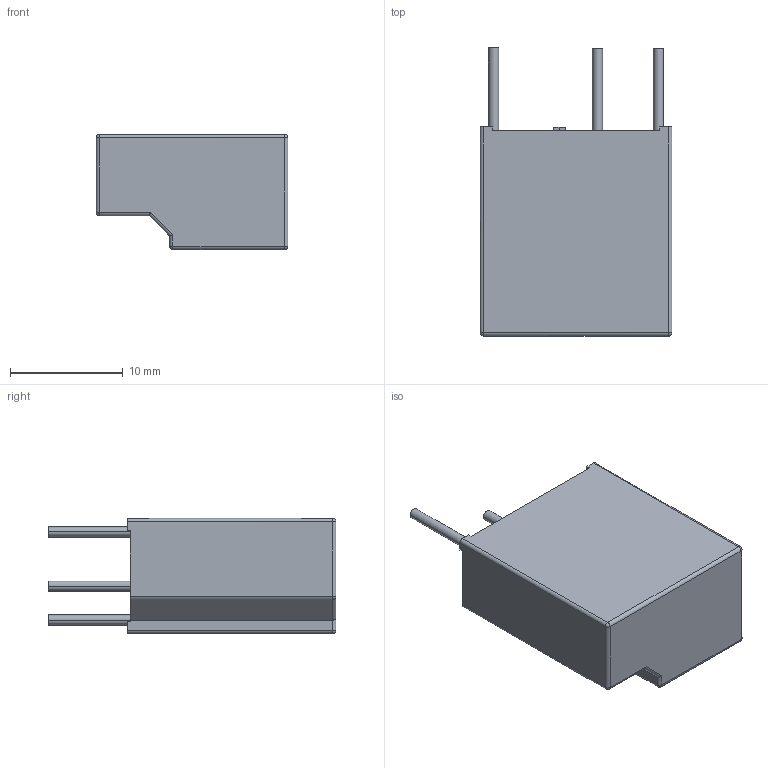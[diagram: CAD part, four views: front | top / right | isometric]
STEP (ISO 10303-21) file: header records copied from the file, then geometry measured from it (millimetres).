
FILE_DESCRIPTION((''),'2;1');
FILE_NAME('1001000048005-TFMOV15S471-3-001','2020-08-05T14:51:13',('SET-00098'),(''),'CREO PARAMETRIC BY PTC INC, 2018400','CREO PARAMETRIC BY PTC INC, 2018400','');
FILE_SCHEMA(('AUTOMOTIVE_DESIGN { 1 0 10303 214 1 1 1 1 }'));
Length unit declared in the file: millimetre
Products named in the file (1): 1001000048005-TFMOV15S471-3-001
Bounding box: 17 x 25.5 x 10.2 mm (x, y, z)
Volume: 2842.6 mm3; surface area: 1330.2 mm2
Topology: 1 solids, 1 shells, 55 faces, 141 edges, 86 vertices
Faces by surface type: plane 32, cylinder 18, sphere 5
Entity records: 1691 total; most frequent: CARTESIAN_POINT 293, DIRECTION 279, ORIENTED_EDGE 272, EDGE_CURVE 136, VECTOR 99, LINE 99, AXIS2_PLACEMENT_3D 90, VERTEX_POINT 86
